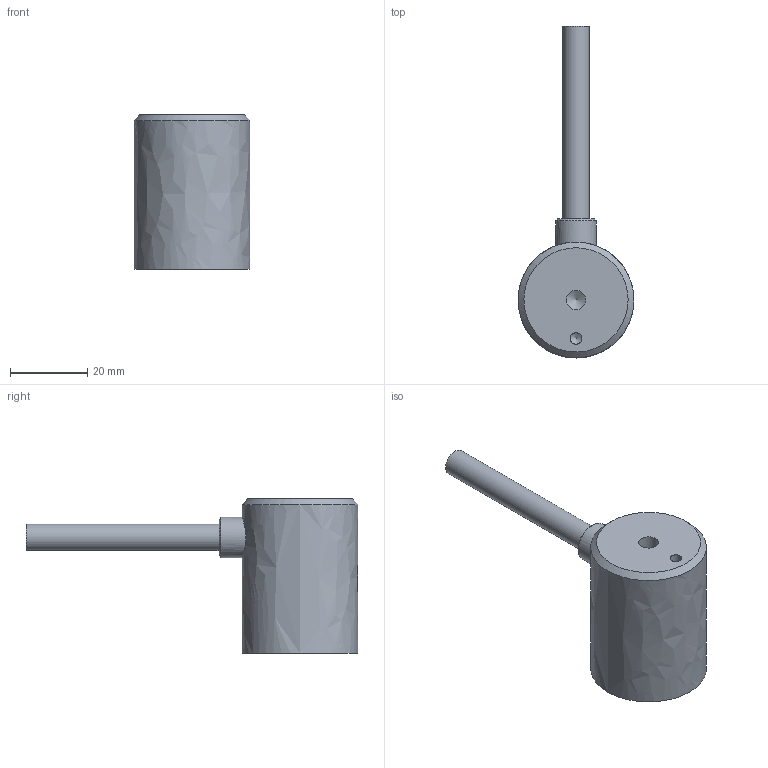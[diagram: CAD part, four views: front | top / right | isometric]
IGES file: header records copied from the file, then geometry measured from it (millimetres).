
Global section: file name: EMH-1-30Dx40H-S-DC24V; native system: unknown; preprocessor: unknown; author: unknown; organization: unknown; date: 20231215.114145; units: millimetre
Bounding box: 30 x 86 x 40 mm (x, y, z)
Volume: 30179.3 mm3; surface area: 6691.1 mm2
Topology: 2 solids, 2 shells, 18 faces, 37 edges, 26 vertices
Faces by surface type: bspline 18
